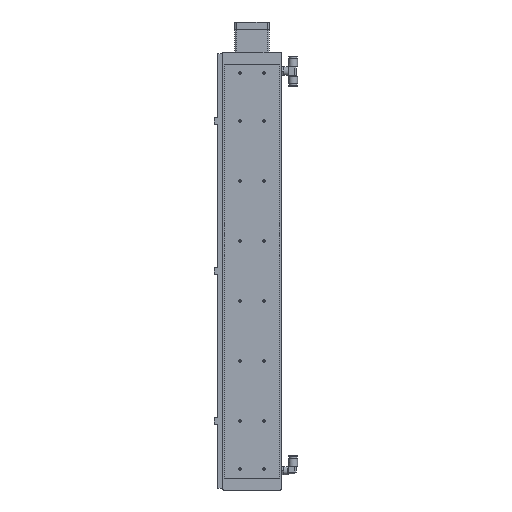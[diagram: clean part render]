
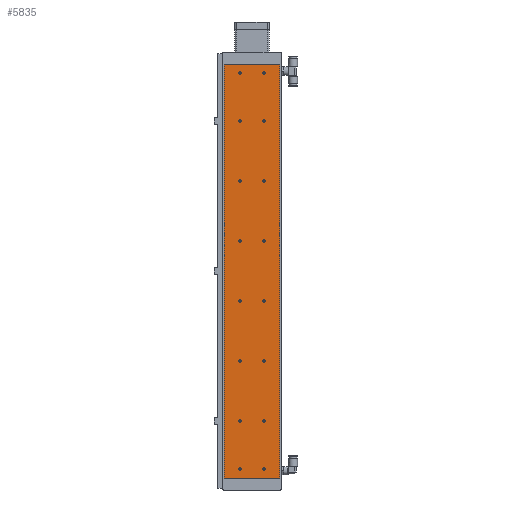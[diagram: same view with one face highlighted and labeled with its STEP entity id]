
A CAD part, front view. The second image highlights one B-rep face of the part: STEP entity #5835.
In plain terms, the highlighted planar face has unit normal (0, -1, 0).
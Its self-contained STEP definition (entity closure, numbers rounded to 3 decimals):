
#4419=CARTESIAN_POINT('',(-17.933,0.0,35.));
#4420=VERTEX_POINT('',#4419);
#4421=CARTESIAN_POINT('',(-20.,0.0,35.));
#4422=DIRECTION('',(0.0,1.0,0.0));
#4423=DIRECTION('',(1.0,0.0,0.0));
#4424=AXIS2_PLACEMENT_3D('',#4421,#4422,#4423);
#4425=CIRCLE('',#4424,2.067);
#4426=EDGE_CURVE('',#4420,#4420,#4425,.T.);
#4477=CARTESIAN_POINT('',(22.067,0.0,35.));
#4478=VERTEX_POINT('',#4477);
#4479=CARTESIAN_POINT('',(20.,0.0,35.));
#4480=DIRECTION('',(0.0,1.0,0.0));
#4481=DIRECTION('',(1.0,0.0,0.0));
#4482=AXIS2_PLACEMENT_3D('',#4479,#4480,#4481);
#4483=CIRCLE('',#4482,2.067);
#4484=EDGE_CURVE('',#4478,#4478,#4483,.T.);
#4535=CARTESIAN_POINT('',(22.067,0.0,695.0));
#4536=VERTEX_POINT('',#4535);
#4537=CARTESIAN_POINT('',(20.,0.0,695.0));
#4538=DIRECTION('',(0.0,1.0,0.0));
#4539=DIRECTION('',(1.0,0.0,0.0));
#4540=AXIS2_PLACEMENT_3D('',#4537,#4538,#4539);
#4541=CIRCLE('',#4540,2.067);
#4542=EDGE_CURVE('',#4536,#4536,#4541,.T.);
#4593=CARTESIAN_POINT('',(-17.933,0.0,695.0));
#4594=VERTEX_POINT('',#4593);
#4595=CARTESIAN_POINT('',(-20.,0.0,695.0));
#4596=DIRECTION('',(0.0,1.0,0.0));
#4597=DIRECTION('',(1.0,0.0,0.0));
#4598=AXIS2_PLACEMENT_3D('',#4595,#4596,#4597);
#4599=CIRCLE('',#4598,2.067);
#4600=EDGE_CURVE('',#4594,#4594,#4599,.T.);
#4651=CARTESIAN_POINT('',(22.067,0.0,115.));
#4652=VERTEX_POINT('',#4651);
#4653=CARTESIAN_POINT('',(20.,0.0,115.));
#4654=DIRECTION('',(0.0,1.0,0.0));
#4655=DIRECTION('',(1.0,0.0,0.0));
#4656=AXIS2_PLACEMENT_3D('',#4653,#4654,#4655);
#4657=CIRCLE('',#4656,2.067);
#4658=EDGE_CURVE('',#4652,#4652,#4657,.T.);
#4709=CARTESIAN_POINT('',(-17.933,0.0,115.));
#4710=VERTEX_POINT('',#4709);
#4711=CARTESIAN_POINT('',(-20.,0.0,115.));
#4712=DIRECTION('',(0.0,1.0,0.0));
#4713=DIRECTION('',(1.0,0.0,0.0));
#4714=AXIS2_PLACEMENT_3D('',#4711,#4712,#4713);
#4715=CIRCLE('',#4714,2.067);
#4716=EDGE_CURVE('',#4710,#4710,#4715,.T.);
#4767=CARTESIAN_POINT('',(22.067,0.0,615.0));
#4768=VERTEX_POINT('',#4767);
#4769=CARTESIAN_POINT('',(20.,0.0,615.0));
#4770=DIRECTION('',(0.0,1.0,0.0));
#4771=DIRECTION('',(1.0,0.0,0.0));
#4772=AXIS2_PLACEMENT_3D('',#4769,#4770,#4771);
#4773=CIRCLE('',#4772,2.067);
#4774=EDGE_CURVE('',#4768,#4768,#4773,.T.);
#4825=CARTESIAN_POINT('',(-17.933,0.0,615.0));
#4826=VERTEX_POINT('',#4825);
#4827=CARTESIAN_POINT('',(-20.,0.0,615.0));
#4828=DIRECTION('',(0.0,1.0,0.0));
#4829=DIRECTION('',(1.0,0.0,0.0));
#4830=AXIS2_PLACEMENT_3D('',#4827,#4828,#4829);
#4831=CIRCLE('',#4830,2.067);
#4832=EDGE_CURVE('',#4826,#4826,#4831,.T.);
#4883=CARTESIAN_POINT('',(-17.933,0.0,215.0));
#4884=VERTEX_POINT('',#4883);
#4885=CARTESIAN_POINT('',(-20.,0.0,215.0));
#4886=DIRECTION('',(0.0,1.0,0.0));
#4887=DIRECTION('',(1.0,0.0,0.0));
#4888=AXIS2_PLACEMENT_3D('',#4885,#4886,#4887);
#4889=CIRCLE('',#4888,2.067);
#4890=EDGE_CURVE('',#4884,#4884,#4889,.T.);
#4941=CARTESIAN_POINT('',(22.067,0.0,215.0));
#4942=VERTEX_POINT('',#4941);
#4943=CARTESIAN_POINT('',(20.,0.0,215.0));
#4944=DIRECTION('',(0.0,1.0,0.0));
#4945=DIRECTION('',(1.0,0.0,0.0));
#4946=AXIS2_PLACEMENT_3D('',#4943,#4944,#4945);
#4947=CIRCLE('',#4946,2.067);
#4948=EDGE_CURVE('',#4942,#4942,#4947,.T.);
#4999=CARTESIAN_POINT('',(-17.933,0.0,515.0));
#5000=VERTEX_POINT('',#4999);
#5001=CARTESIAN_POINT('',(-20.,0.0,515.0));
#5002=DIRECTION('',(0.0,1.0,0.0));
#5003=DIRECTION('',(1.0,0.0,0.0));
#5004=AXIS2_PLACEMENT_3D('',#5001,#5002,#5003);
#5005=CIRCLE('',#5004,2.067);
#5006=EDGE_CURVE('',#5000,#5000,#5005,.T.);
#5057=CARTESIAN_POINT('',(22.067,0.0,515.0));
#5058=VERTEX_POINT('',#5057);
#5059=CARTESIAN_POINT('',(20.,0.0,515.0));
#5060=DIRECTION('',(0.0,1.0,0.0));
#5061=DIRECTION('',(1.0,0.0,0.0));
#5062=AXIS2_PLACEMENT_3D('',#5059,#5060,#5061);
#5063=CIRCLE('',#5062,2.067);
#5064=EDGE_CURVE('',#5058,#5058,#5063,.T.);
#5115=CARTESIAN_POINT('',(-17.933,0.0,415.0));
#5116=VERTEX_POINT('',#5115);
#5117=CARTESIAN_POINT('',(-20.,0.0,415.0));
#5118=DIRECTION('',(0.0,1.0,0.0));
#5119=DIRECTION('',(1.0,0.0,0.0));
#5120=AXIS2_PLACEMENT_3D('',#5117,#5118,#5119);
#5121=CIRCLE('',#5120,2.067);
#5122=EDGE_CURVE('',#5116,#5116,#5121,.T.);
#5173=CARTESIAN_POINT('',(-17.933,0.0,315.0));
#5174=VERTEX_POINT('',#5173);
#5175=CARTESIAN_POINT('',(-20.0,0.0,315.0));
#5176=DIRECTION('',(0.0,1.0,0.0));
#5177=DIRECTION('',(1.0,0.0,0.0));
#5178=AXIS2_PLACEMENT_3D('',#5175,#5176,#5177);
#5179=CIRCLE('',#5178,2.067);
#5180=EDGE_CURVE('',#5174,#5174,#5179,.T.);
#5231=CARTESIAN_POINT('',(22.067,0.0,315.0));
#5232=VERTEX_POINT('',#5231);
#5233=CARTESIAN_POINT('',(20.,0.0,315.0));
#5234=DIRECTION('',(0.0,1.0,0.0));
#5235=DIRECTION('',(1.0,0.0,0.0));
#5236=AXIS2_PLACEMENT_3D('',#5233,#5234,#5235);
#5237=CIRCLE('',#5236,2.067);
#5238=EDGE_CURVE('',#5232,#5232,#5237,.T.);
#5289=CARTESIAN_POINT('',(22.067,0.0,415.0));
#5290=VERTEX_POINT('',#5289);
#5291=CARTESIAN_POINT('',(20.,0.0,415.0));
#5292=DIRECTION('',(0.0,1.0,0.0));
#5293=DIRECTION('',(1.0,0.0,0.0));
#5294=AXIS2_PLACEMENT_3D('',#5291,#5292,#5293);
#5295=CIRCLE('',#5294,2.067);
#5296=EDGE_CURVE('',#5290,#5290,#5295,.T.);
#5698=CARTESIAN_POINT('',(46.,0.0,20.));
#5699=VERTEX_POINT('',#5698);
#5706=CARTESIAN_POINT('',(-46.,0.0,20.));
#5707=VERTEX_POINT('',#5706);
#5708=CARTESIAN_POINT('',(-46.,0.0,20.));
#5709=DIRECTION('',(1.0,0.0,0.0));
#5710=VECTOR('',#5709,92.);
#5711=LINE('',#5708,#5710);
#5712=EDGE_CURVE('',#5707,#5699,#5711,.T.);
#5729=CARTESIAN_POINT('',(-46.,0.0,710.0));
#5730=VERTEX_POINT('',#5729);
#5737=CARTESIAN_POINT('',(46.,0.0,710.0));
#5738=VERTEX_POINT('',#5737);
#5739=CARTESIAN_POINT('',(46.,0.0,710.0));
#5740=DIRECTION('',(-1.0,0.0,0.0));
#5741=VECTOR('',#5740,92.);
#5742=LINE('',#5739,#5741);
#5743=EDGE_CURVE('',#5738,#5730,#5742,.T.);
#5760=CARTESIAN_POINT('',(-46.,0.0,20.));
#5761=DIRECTION('',(0.0,0.0,1.0));
#5762=VECTOR('',#5761,690.0);
#5763=LINE('',#5760,#5762);
#5764=EDGE_CURVE('',#5707,#5730,#5763,.T.);
#5771=CARTESIAN_POINT('',(46.,0.0,0.0));
#5772=DIRECTION('',(0.0,-1.0,0.0));
#5773=DIRECTION('',(0.0,0.0,-1.0));
#5774=AXIS2_PLACEMENT_3D('',#5771,#5772,#5773);
#5775=PLANE('',#5774);
#5776=ORIENTED_EDGE('',*,*,#5712,.T.);
#5777=CARTESIAN_POINT('',(46.,0.0,20.));
#5778=DIRECTION('',(0.0,0.0,1.0));
#5779=VECTOR('',#5778,690.0);
#5780=LINE('',#5777,#5779);
#5781=EDGE_CURVE('',#5699,#5738,#5780,.T.);
#5782=ORIENTED_EDGE('',*,*,#5781,.T.);
#5783=ORIENTED_EDGE('',*,*,#5743,.T.);
#5784=ORIENTED_EDGE('',*,*,#5764,.F.);
#5785=EDGE_LOOP('',(#5776,#5782,#5783,#5784));
#5786=FACE_OUTER_BOUND('',#5785,.T.);
#5787=ORIENTED_EDGE('',*,*,#4426,.T.);
#5788=EDGE_LOOP('',(#5787));
#5789=FACE_BOUND('',#5788,.T.);
#5790=ORIENTED_EDGE('',*,*,#4484,.T.);
#5791=EDGE_LOOP('',(#5790));
#5792=FACE_BOUND('',#5791,.T.);
#5793=ORIENTED_EDGE('',*,*,#4542,.T.);
#5794=EDGE_LOOP('',(#5793));
#5795=FACE_BOUND('',#5794,.T.);
#5796=ORIENTED_EDGE('',*,*,#4600,.T.);
#5797=EDGE_LOOP('',(#5796));
#5798=FACE_BOUND('',#5797,.T.);
#5799=ORIENTED_EDGE('',*,*,#4658,.T.);
#5800=EDGE_LOOP('',(#5799));
#5801=FACE_BOUND('',#5800,.T.);
#5802=ORIENTED_EDGE('',*,*,#4716,.T.);
#5803=EDGE_LOOP('',(#5802));
#5804=FACE_BOUND('',#5803,.T.);
#5805=ORIENTED_EDGE('',*,*,#4774,.T.);
#5806=EDGE_LOOP('',(#5805));
#5807=FACE_BOUND('',#5806,.T.);
#5808=ORIENTED_EDGE('',*,*,#4832,.T.);
#5809=EDGE_LOOP('',(#5808));
#5810=FACE_BOUND('',#5809,.T.);
#5811=ORIENTED_EDGE('',*,*,#4890,.T.);
#5812=EDGE_LOOP('',(#5811));
#5813=FACE_BOUND('',#5812,.T.);
#5814=ORIENTED_EDGE('',*,*,#4948,.T.);
#5815=EDGE_LOOP('',(#5814));
#5816=FACE_BOUND('',#5815,.T.);
#5817=ORIENTED_EDGE('',*,*,#5006,.T.);
#5818=EDGE_LOOP('',(#5817));
#5819=FACE_BOUND('',#5818,.T.);
#5820=ORIENTED_EDGE('',*,*,#5064,.T.);
#5821=EDGE_LOOP('',(#5820));
#5822=FACE_BOUND('',#5821,.T.);
#5823=ORIENTED_EDGE('',*,*,#5122,.T.);
#5824=EDGE_LOOP('',(#5823));
#5825=FACE_BOUND('',#5824,.T.);
#5826=ORIENTED_EDGE('',*,*,#5180,.T.);
#5827=EDGE_LOOP('',(#5826));
#5828=FACE_BOUND('',#5827,.T.);
#5829=ORIENTED_EDGE('',*,*,#5238,.T.);
#5830=EDGE_LOOP('',(#5829));
#5831=FACE_BOUND('',#5830,.T.);
#5832=ORIENTED_EDGE('',*,*,#5296,.T.);
#5833=EDGE_LOOP('',(#5832));
#5834=FACE_BOUND('',#5833,.T.);
#5835=ADVANCED_FACE('',(#5786,#5789,#5792,#5795,#5798,#5801,#5804,#5807,#5810,#5813,#5816,#5819,#5822,#5825,#5828,#5831,#5834),#5775,.T.);
